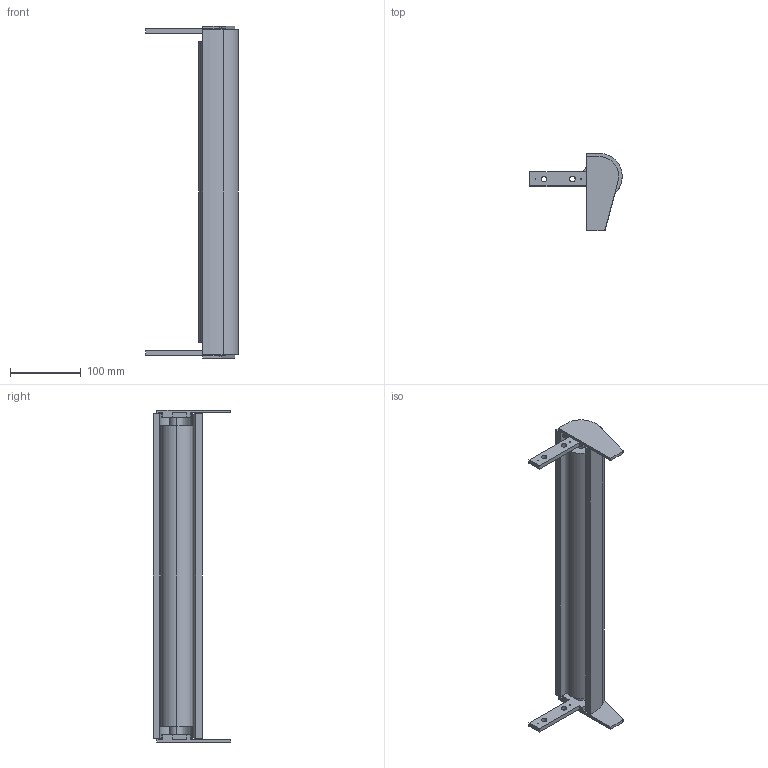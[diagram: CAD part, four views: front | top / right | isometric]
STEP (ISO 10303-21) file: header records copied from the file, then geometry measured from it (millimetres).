
FILE_DESCRIPTION (( 'STEP AP214' ), '1' );
FILE_NAME ('FS-160-MTS-100.ALU omloop 470.STEP', '2017-02-08T12:08:54', ( '' ), ( '' ), 'SwSTEP 2.0', 'SolidWorks 2016', '' );
FILE_SCHEMA (( 'AUTOMOTIVE_DESIGN' ));
Length unit declared in the file: millimetre
Products named in the file (1): FS-160-MTS-100.ALU omloop 470
Bounding box: 130.3 x 109 x 468 mm (x, y, z)
Volume: 1247480.9 mm3; surface area: 215257.5 mm2
Topology: 2 solids, 2 shells, 70 faces, 186 edges, 124 vertices
Faces by surface type: cylinder 36, plane 34
Entity records: 2277 total; most frequent: DIRECTION 400, CARTESIAN_POINT 381, ORIENTED_EDGE 372, EDGE_CURVE 186, AXIS2_PLACEMENT_3D 143, VERTEX_POINT 124, VECTOR 114, LINE 114
